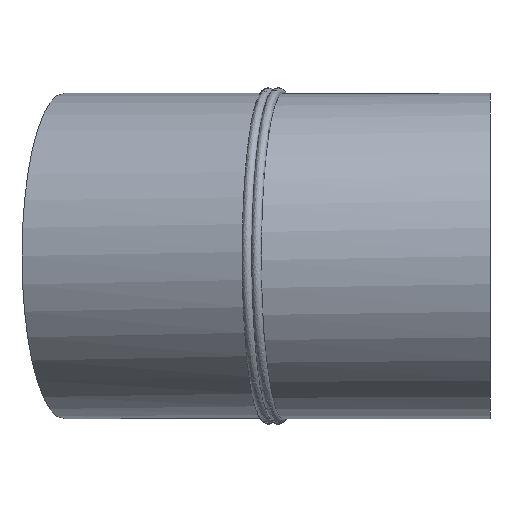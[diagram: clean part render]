
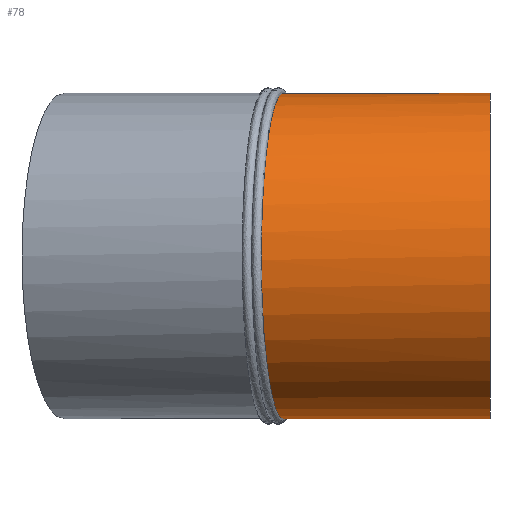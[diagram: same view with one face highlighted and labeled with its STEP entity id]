
A CAD part, left-side view. The second image highlights one B-rep face of the part: STEP entity #78.
In plain terms, the highlighted cylindrical face has radius 250 mm (diameter 500 mm), a full revolution.
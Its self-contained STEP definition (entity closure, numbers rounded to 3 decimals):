
#32=B_SPLINE_CURVE_WITH_KNOTS('',3,(#131,#132,#133,#134,#135,#136,#137,
#138,#139,#140,#141,#142,#143,#144,#145,#146,#147,#148,#149,#150,#151,#152,
#153,#154,#155,#156,#157,#158,#159,#160,#161,#162,#163,#164,#165,#166,#167,
#168,#169,#170,#171,#172,#173,#174,#175,#176,#177,#178,#179,#180,#181,#182,
#183,#184,#185,#186,#187,#188,#189,#190,#191,#192,#193,#194,#195,#196,#197,
#198,#199,#200,#201,#202,#203,#204,#205,#206,#207,#208,#209,#210,#211,#212,
#213,#214,#215,#216,#217,#218,#219,#220,#221),.UNSPECIFIED.,.T.,.F.,(1,
1,1,1,1,1,1,1,1,1,1,1,1,1,1,1,1,1,1,1,1,1,1,1,1,1,1,1,1,1,1,1,1,1,1,1,1,
1,1,1,1,1,1,1,1,1,1,1,1,1,1,1,1,1,1,1,1,1,1,1,1,1,1,1,1,1,1,1,1,1,1,1,1,
1,1,1,1,1,1,1,1,1,1,1,1,1,1,1,1,1,1,1,1,1,1),(-0.074,-0.05,
-0.025,0.,0.025,0.05,
0.074,0.087,0.099,0.124,
0.149,0.173,0.198,0.223,
0.235,0.248,0.26,0.272,
0.297,0.322,0.334,0.347,
0.359,0.371,0.384,0.396,
0.421,0.446,0.458,0.47,
0.495,0.52,0.532,0.545,
0.569,0.594,0.606,0.619,
0.631,0.644,0.656,0.668,
0.693,0.718,0.743,0.767,
0.78,0.792,0.817,0.842,
0.866,0.879,0.891,0.904,
0.916,0.928,0.941,0.965,
0.99,1.003,1.015,1.04,1.064,
1.077,1.089,1.114,1.139,1.163,
1.176,1.188,1.201,1.213,1.238,
1.262,1.287,1.312,1.324,1.337,
1.349,1.361,1.386,1.411,1.423,
1.436,1.448,1.46,1.473,1.485,
1.51,1.535,1.559,1.584,1.609,
1.634,1.659),.UNSPECIFIED.);
#34=ORIENTED_EDGE('',*,*,#44,.T.);
#35=ORIENTED_EDGE('',*,*,#45,.F.);
#44=EDGE_CURVE('',#49,#49,#54,.T.);
#45=EDGE_CURVE('',#50,#50,#32,.T.);
#49=VERTEX_POINT('',#130);
#50=VERTEX_POINT('',#222);
#54=CIRCLE('',#99,250.);
#56=EDGE_LOOP('',(#34));
#57=EDGE_LOOP('',(#35));
#66=FACE_BOUND('',#56,.T.);
#67=FACE_BOUND('',#57,.T.);
#76=CYLINDRICAL_SURFACE('',#98,250.);
#78=ADVANCED_FACE('',(#66,#67),#76,.T.);
#98=AXIS2_PLACEMENT_3D('',#128,#109,#110);
#99=AXIS2_PLACEMENT_3D('',#129,#111,#112);
#109=DIRECTION('',(0.,-1.,0.));
#110=DIRECTION('',(0.,0.,-1.));
#111=DIRECTION('',(0.,1.,0.));
#112=DIRECTION('',(1.,0.,0.));
#128=CARTESIAN_POINT('',(0.,650.,0.));
#129=CARTESIAN_POINT('',(0.,0.,0.));
#130=CARTESIAN_POINT('',(250.,0.,0.));
#131=CARTESIAN_POINT('',(24.425,314.673,-249.198));
#132=CARTESIAN_POINT('',(0.036,317.907,-250.402));
#133=CARTESIAN_POINT('',(-24.569,321.174,-249.192));
#134=CARTESIAN_POINT('',(-48.678,324.38,-245.617));
#135=CARTESIAN_POINT('',(-68.457,327.014,-240.689));
#136=CARTESIAN_POINT('',(-84.019,329.088,-235.565));
#137=CARTESIAN_POINT('',(-99.248,331.12,-229.71));
#138=CARTESIAN_POINT('',(-117.797,333.597,-220.963));
#139=CARTESIAN_POINT('',(-138.847,336.412,-208.383));
#140=CARTESIAN_POINT('',(-158.669,339.066,-193.713));
#141=CARTESIAN_POINT('',(-176.717,341.486,-177.39));
#142=CARTESIAN_POINT('',(-190.373,343.318,-162.4));
#143=CARTESIAN_POINT('',(-200.438,344.67,-149.582));
#144=CARTESIAN_POINT('',(-207.569,345.628,-139.521));
#145=CARTESIAN_POINT('',(-214.195,346.519,-129.116));
#146=CARTESIAN_POINT('',(-222.319,347.611,-114.859));
#147=CARTESIAN_POINT('',(-231.18,348.803,-96.225));
#148=CARTESIAN_POINT('',(-238.129,349.739,-76.897));
#149=CARTESIAN_POINT('',(-242.551,350.334,-60.991));
#150=CARTESIAN_POINT('',(-245.265,350.699,-48.948));
#151=CARTESIAN_POINT('',(-247.38,350.984,-36.796));
#152=CARTESIAN_POINT('',(-248.898,351.189,-24.513));
#153=CARTESIAN_POINT('',(-249.805,351.311,-12.178));
#154=CARTESIAN_POINT('',(-250.201,351.364,4.263));
#155=CARTESIAN_POINT('',(-249.165,351.225,24.906));
#156=CARTESIAN_POINT('',(-246.116,350.814,45.233));
#157=CARTESIAN_POINT('',(-242.462,350.322,61.343));
#158=CARTESIAN_POINT('',(-238.05,349.728,77.129));
#159=CARTESIAN_POINT('',(-231.148,348.799,96.274));
#160=CARTESIAN_POINT('',(-222.424,347.625,114.648));
#161=CARTESIAN_POINT('',(-214.339,346.538,128.879));
#162=CARTESIAN_POINT('',(-205.498,345.35,142.79));
#163=CARTESIAN_POINT('',(-193.26,343.706,159.225));
#164=CARTESIAN_POINT('',(-179.404,341.847,174.447));
#165=CARTESIAN_POINT('',(-167.522,340.253,185.706));
#166=CARTESIAN_POINT('',(-158.187,339.002,193.72));
#167=CARTESIAN_POINT('',(-148.464,337.7,201.268));
#168=CARTESIAN_POINT('',(-138.417,336.355,208.305));
#169=CARTESIAN_POINT('',(-128.034,334.966,214.844));
#170=CARTESIAN_POINT('',(-113.736,333.055,222.893));
#171=CARTESIAN_POINT('',(-95.26,330.587,231.574));
#172=CARTESIAN_POINT('',(-72.075,327.495,239.8));
#173=CARTESIAN_POINT('',(-48.54,324.361,245.639));
#174=CARTESIAN_POINT('',(-28.552,321.703,248.595));
#175=CARTESIAN_POINT('',(-12.36,319.552,249.794));
#176=CARTESIAN_POINT('',(4.01,317.38,250.202));
#177=CARTESIAN_POINT('',(24.369,314.681,249.212));
#178=CARTESIAN_POINT('',(48.69,311.461,245.621));
#179=CARTESIAN_POINT('',(68.475,308.846,240.683));
#180=CARTESIAN_POINT('',(84.043,306.79,235.557));
#181=CARTESIAN_POINT('',(95.479,305.282,231.157));
#182=CARTESIAN_POINT('',(106.683,303.804,226.206));
#183=CARTESIAN_POINT('',(117.67,302.357,220.69));
#184=CARTESIAN_POINT('',(128.365,300.949,214.645));
#185=CARTESIAN_POINT('',(142.182,299.131,205.916));
#186=CARTESIAN_POINT('',(158.701,296.959,193.689));
#187=CARTESIAN_POINT('',(173.871,294.968,179.963));
#188=CARTESIAN_POINT('',(185.227,293.478,168.052));
#189=CARTESIAN_POINT('',(195.912,292.077,155.675));
#190=CARTESIAN_POINT('',(208.022,290.49,139.37));
#191=CARTESIAN_POINT('',(218.5,289.119,121.959));
#192=CARTESIAN_POINT('',(225.884,288.152,107.365));
#193=CARTESIAN_POINT('',(232.596,287.274,92.292));
#194=CARTESIAN_POINT('',(239.542,286.366,72.961));
#195=CARTESIAN_POINT('',(245.581,285.577,48.925));
#196=CARTESIAN_POINT('',(248.6,285.183,28.581));
#197=CARTESIAN_POINT('',(249.809,285.025,12.108));
#198=CARTESIAN_POINT('',(250.101,284.987,-0.228));
#199=CARTESIAN_POINT('',(249.786,285.028,-12.569));
#200=CARTESIAN_POINT('',(248.547,285.19,-29.042));
#201=CARTESIAN_POINT('',(245.493,285.589,-49.372));
#202=CARTESIAN_POINT('',(239.403,286.385,-73.407));
#203=CARTESIAN_POINT('',(231.102,287.47,-96.382));
#204=CARTESIAN_POINT('',(222.372,288.612,-114.748));
#205=CARTESIAN_POINT('',(214.299,289.668,-128.943));
#206=CARTESIAN_POINT('',(207.673,290.536,-139.366));
#207=CARTESIAN_POINT('',(200.555,291.468,-149.425));
#208=CARTESIAN_POINT('',(190.44,292.794,-162.328));
#209=CARTESIAN_POINT('',(176.577,294.612,-177.546));
#210=CARTESIAN_POINT('',(161.375,296.608,-191.248));
#211=CARTESIAN_POINT('',(148.394,298.314,-201.32));
#212=CARTESIAN_POINT('',(138.337,299.637,-208.357));
#213=CARTESIAN_POINT('',(127.957,301.002,-214.889));
#214=CARTESIAN_POINT('',(117.234,302.414,-220.922));
#215=CARTESIAN_POINT('',(106.253,303.861,-226.407));
#216=CARTESIAN_POINT('',(91.307,305.832,-232.981));
#217=CARTESIAN_POINT('',(71.962,308.385,-239.836));
#218=CARTESIAN_POINT('',(48.382,311.502,-245.671));
#219=CARTESIAN_POINT('',(24.425,314.673,-249.198));
#220=CARTESIAN_POINT('',(0.036,317.907,-250.402));
#221=CARTESIAN_POINT('',(-24.569,321.174,-249.192));
#222=CARTESIAN_POINT('',(0.,317.912,-250.));
